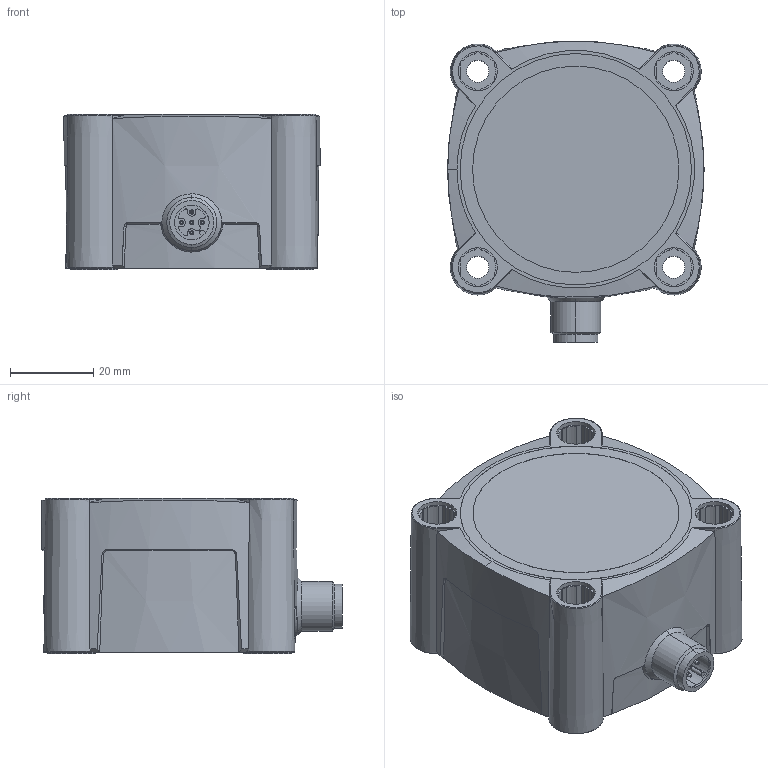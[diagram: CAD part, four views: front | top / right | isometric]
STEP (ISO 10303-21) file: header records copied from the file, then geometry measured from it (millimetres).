
FILE_DESCRIPTION (( 'STEP AP203' ), '1' );
FILE_NAME ('lcs+600_NG.STEP', '2023-02-28T11:17:16', ( '' ), ( '' ), 'SwSTEP 2.0', 'SolidWorks 2021', '' );
FILE_SCHEMA (( 'CONFIG_CONTROL_DESIGN' ));
Length unit declared in the file: millimetre
Products named in the file (1): lcs+600_NG
Bounding box: 61.47 x 72.14 x 37.2 mm (x, y, z)
Volume: 121375.9 mm3; surface area: 20154.9 mm2
Topology: 1 solids, 1 shells, 675 faces, 1809 edges, 1182 vertices
Faces by surface type: plane 262, cylinder 171, bspline 120, cone 70, torus 52
Entity records: 26811 total; most frequent: CARTESIAN_POINT 10722, ORIENTED_EDGE 3618, DIRECTION 2999, EDGE_CURVE 1809, VERTEX_POINT 1182, AXIS2_PLACEMENT_3D 1176, EDGE_LOOP 729, ADVANCED_FACE 675
